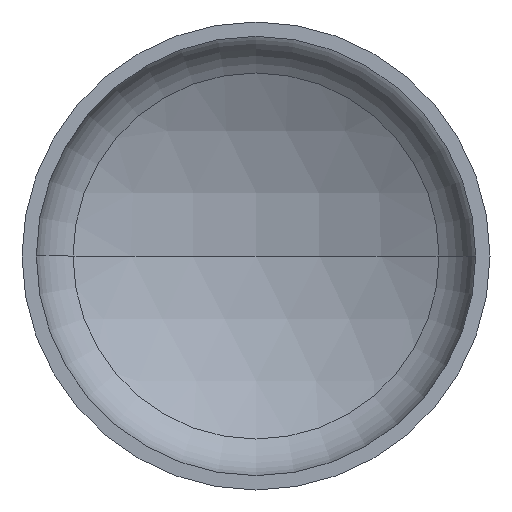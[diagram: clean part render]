
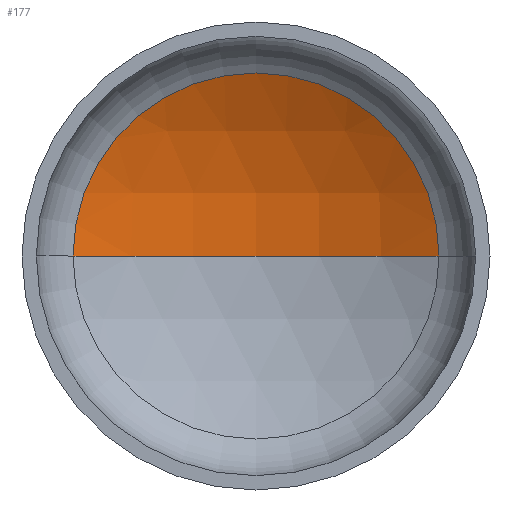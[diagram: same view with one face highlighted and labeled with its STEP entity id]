
A CAD part, front view. The second image highlights one B-rep face of the part: STEP entity #177.
In plain terms, the highlighted spherical face has radius 1280 mm.
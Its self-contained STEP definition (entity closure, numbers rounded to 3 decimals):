
#1 = CARTESIAN_POINT ( 'NONE',  ( 0., -752.878, 0. ) ) ;
#3 = ORIENTED_EDGE ( 'NONE', *, *, #84, .T. ) ;
#27 = EDGE_LOOP ( 'NONE', ( #137, #3, #124 ) ) ;
#28 = AXIS2_PLACEMENT_3D ( 'NONE', #246, #196, #269 ) ;
#29 = AXIS2_PLACEMENT_3D ( 'NONE', #1, #160, #391 ) ;
#30 = AXIS2_PLACEMENT_3D ( 'NONE', #188, #191, #233 ) ;
#31 = AXIS2_PLACEMENT_3D ( 'NONE', #210, #202, #199 ) ;
#83 = EDGE_CURVE ( 'NONE', #133, #139, #236, .T. ) ;
#84 = EDGE_CURVE ( 'NONE', #90, #133, #163, .T. ) ;
#85 = EDGE_CURVE ( 'NONE', #90, #139, #352, .T. ) ;
#90 = VERTEX_POINT ( 'NONE', #200 ) ;
#124 = ORIENTED_EDGE ( 'NONE', *, *, #83, .T. ) ;
#133 = VERTEX_POINT ( 'NONE', #256 ) ;
#137 = ORIENTED_EDGE ( 'NONE', *, *, #85, .F. ) ;
#139 = VERTEX_POINT ( 'NONE', #195 ) ;
#160 = DIRECTION ( 'NONE',  ( 0., 0., 1. ) ) ;
#163 = CIRCLE ( 'NONE', #30, 1280. ) ;
#177 = ADVANCED_FACE ( 'NONE', ( #286 ), #403, .F. ) ;
#188 = CARTESIAN_POINT ( 'NONE',  ( 0., -752.878, 0. ) ) ;
#191 = DIRECTION ( 'NONE',  ( 0., 0., -1. ) ) ;
#195 = CARTESIAN_POINT ( 'NONE',  ( -625.778, 363.725, 0. ) ) ;
#196 = DIRECTION ( 'NONE',  ( 0., 0., -1. ) ) ;
#199 = DIRECTION ( 'NONE',  ( 1., 0., 0. ) ) ;
#200 = CARTESIAN_POINT ( 'NONE',  ( 0., 527.122, 0. ) ) ;
#202 = DIRECTION ( 'NONE',  ( 0., -1., 0. ) ) ;
#210 = CARTESIAN_POINT ( 'NONE',  ( 0., 363.725, 0. ) ) ;
#233 = DIRECTION ( 'NONE',  ( -1., 0., 0. ) ) ;
#236 = CIRCLE ( 'NONE', #31, 625.778 ) ;
#246 = CARTESIAN_POINT ( 'NONE',  ( 0., -752.878, 0. ) ) ;
#256 = CARTESIAN_POINT ( 'NONE',  ( 625.778, 363.725, 0. ) ) ;
#269 = DIRECTION ( 'NONE',  ( -1., 0., 0. ) ) ;
#286 = FACE_OUTER_BOUND ( 'NONE', #27, .T. ) ;
#352 = CIRCLE ( 'NONE', #29, 1280. ) ;
#391 = DIRECTION ( 'NONE',  ( 1., 0., 0. ) ) ;
#403 = SPHERICAL_SURFACE ( 'NONE', #28, 1280. ) ;
